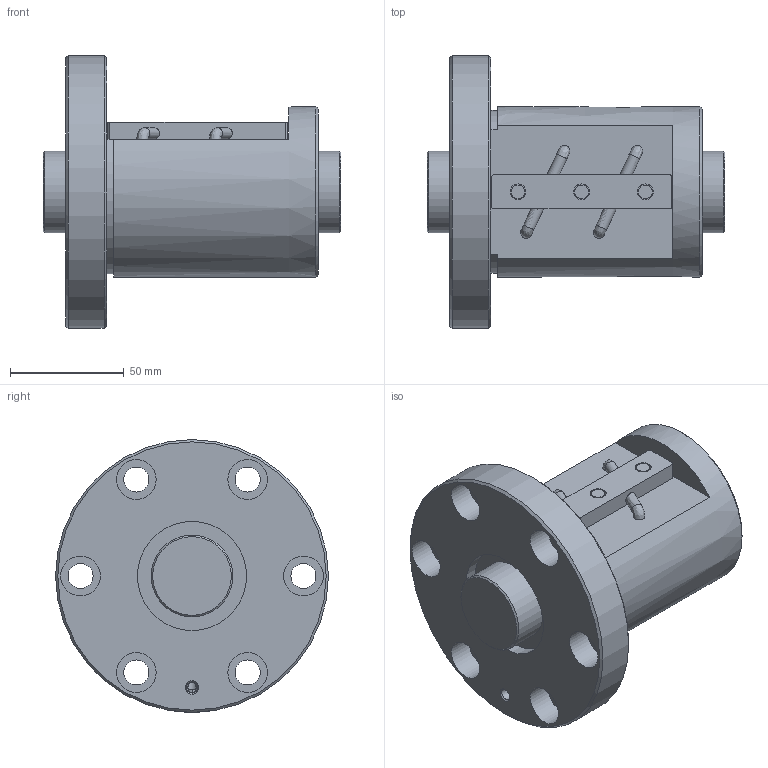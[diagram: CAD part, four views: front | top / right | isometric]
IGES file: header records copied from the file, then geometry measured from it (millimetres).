
Start section: Data from Parasolid IGES Translator 26.0.171, Copyright(c) 2006 Siemens PLM Software. All Rights Reserved.
Global section: file name: BNF3610V-5RRG1+131LC0_000_rev.igs; native system: By Siemens PLM Incorporated; preprocessor: XPlus GENERIC/IGES 26.0.171; author: Noname; organization: Noname; date: 20240806.083911; units: millimetre
Bounding box: 131 x 120 x 120 mm (x, y, z)
Surface area: 86419.7 mm2 (no closed solid volume)
Topology: 0 solids, 0 shells, 79 faces, 372 edges, 328 vertices
Faces by surface type: revolution 50, extrusion 29
